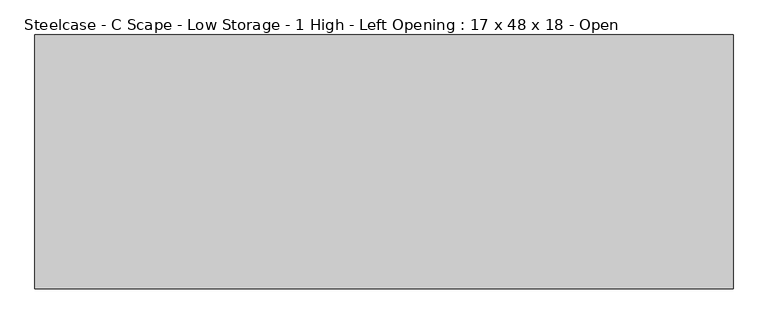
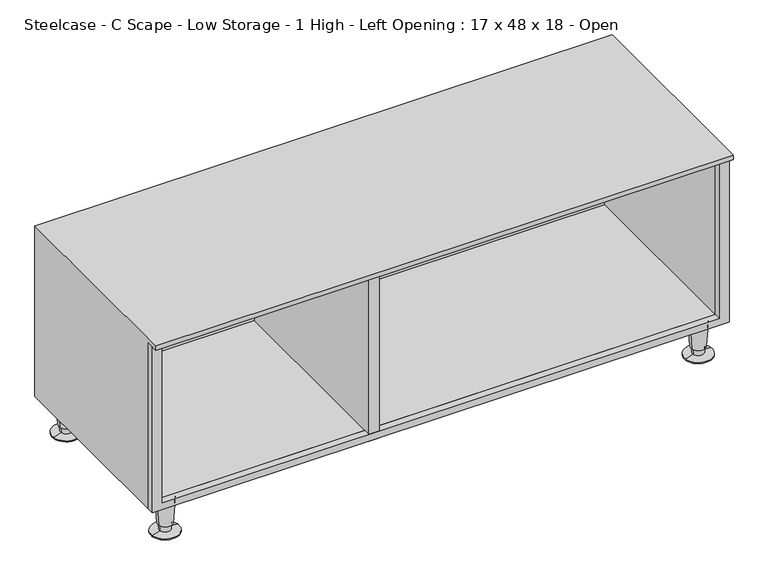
"""IFC4 building model written with IfcOpenShell, lengths in millimetres: furniture geometry, Steelcase - C Scape - Low Storage - 1 High - Left Opening : 17 x 48 x 18 - Open."""

from ifc_helpers import new_model, si_unit, frame, origin, place, context, project, spatial, polyline, circle_curve, outline, extrude, faceted_brep, source, transform, mapped, element, save
from ifc_brep_helpers import plane_surface, cylinder_surface, revolved_surface, advanced_brep


def steelcase_c_scape_low_storage_1_high_left_opening_17_x_48_x_d755b348(model_context):
    return source(origin(), model_context, "Body", "SolidModel", [
        extrude(outline(polyline([(447.0400097, 1217.93), (447.0400097, -0.0013237), (76.2, -0.0013237), (76.2, 1217.93), (447.0400097, 1217.93)]), holes=[polyline([(91.44, 21.3369088), (436.2449927, 21.3369088), (436.2449927, 1196.5917676), (91.44, 1196.5917676), (91.44, 21.3369088)])]), frame((0.0, -428.8790543, 0.0), z_axis=(0.0, 1.0, 0.0), x_axis=(0.0, 0.0, 1.0)), (0.0, 0.0, 1.0), 14.986226),
        advanced_brep(
        [(1190.0494568, -31.5218435, 76.2), (1152.3877179, -37.2840847, 76.2), (1171.2185874, -34.4029641, 76.2), (1186.0991088, -32.1262463, 19.05), (1156.3380659, -36.6796819, 19.05), (1183.6695219, -32.4979728, 19.05), (1158.7676529, -36.3079555, 19.05), (1182.9807524, -32.6033544, 5.7545598), (1159.4564224, -36.2025738, 5.7545598), (1200.3296359, -29.9489775, 2.5119506), (1142.1075389, -38.8569507, 2.5119506), (1200.3296359, -29.9489775, 0.0), (1142.1075389, -38.8569507, 0.0), (1171.2185874, -34.4029641, 0.0)],
        [
            (0, 1, circle_curve(frame((1171.2185874, -34.4029641, 76.2), z_axis=(0.0, 0.0, 1.0), x_axis=(0.0, -1.0, 0.0)), 19.05)),
            (1, 2),
            (2, 0),
            (1, 0, circle_curve(frame((1171.2185874, -34.4029641, 76.2), z_axis=(0.0, 0.0, 1.0), x_axis=(0.0, -1.0, 0.0)), 19.05)),
            (3, 4, circle_curve(frame((1171.2185874, -34.4029641, 19.05), z_axis=(0.0, 0.0, 1.0), x_axis=(0.0, -1.0, 0.0)), 15.0536827)),
            (4, 1),
            (0, 3),
            (4, 3, circle_curve(frame((1171.2185874, -34.4029641, 19.05), z_axis=(0.0, 0.0, 1.0), x_axis=(0.0, -1.0, 0.0)), 15.0536827)),
            (5, 6, circle_curve(frame((1171.2185874, -34.4029641, 19.05), z_axis=(0.0, 0.0, 1.0), x_axis=(0.0, -1.0, 0.0)), 12.5958232)),
            (6, 4),
            (3, 5),
            (6, 5, circle_curve(frame((1171.2185874, -34.4029641, 19.05), z_axis=(0.0, 0.0, 1.0), x_axis=(0.0, -1.0, 0.0)), 12.5958232)),
            (7, 8, circle_curve(frame((1171.2185874, -34.4029641, 5.7545598), z_axis=(0.0, 0.0, 1.0), x_axis=(0.0, -1.0, 0.0)), 11.8990387)),
            (8, 6),
            (5, 7),
            (8, 7, circle_curve(frame((1171.2185874, -34.4029641, 5.7545598), z_axis=(0.0, 0.0, 1.0), x_axis=(0.0, -1.0, 0.0)), 11.8990387)),
            (9, 10, circle_curve(frame((1171.2185874, -34.4029641, 2.5119506), z_axis=(0.0, 0.0, 1.0), x_axis=(0.0, -1.0, 0.0)), 29.4498071)),
            (10, 8),
            (7, 9),
            (10, 9, circle_curve(frame((1171.2185874, -34.4029641, 2.5119506), z_axis=(0.0, 0.0, 1.0), x_axis=(0.0, -1.0, 0.0)), 29.4498071)),
            (11, 12, circle_curve(frame((1171.2185874, -34.4029641, 0.0), z_axis=(0.0, 0.0, 1.0), x_axis=(0.0, -1.0, 0.0)), 29.4498071)),
            (12, 10),
            (9, 11),
            (12, 11, circle_curve(frame((1171.2185874, -34.4029641, 0.0), z_axis=(0.0, 0.0, 1.0), x_axis=(0.0, -1.0, 0.0)), 29.4498071)),
            (13, 12),
            (11, 13),
        ],
        [
            plane_surface(frame((1171.2185874, -34.4029641, 76.2), z_axis=(0.0, 0.0, 1.0), x_axis=(0.0, -1.0, 0.0))),
            revolved_surface(polyline([(1171.2185874, -53.4529641, 76.2), (1171.2185874, -49.4566468, 19.05)]), (1171.2185874, -34.4029641, 25.4), (0.0, 0.0, -1.0)),
            plane_surface(frame((1171.2185874, -34.4029641, 19.05), z_axis=(0.0, 0.0, -1.0), x_axis=(0.0, -1.0, 0.0))),
            revolved_surface(polyline([(1171.2185874, -46.9987873, 19.05), (1171.2185874, -46.3020028, 5.7545598)]), (1171.2185874, -34.4029641, 25.4), (0.0, 0.0, -1.0)),
            revolved_surface(polyline([(1171.2185874, -46.3020028, 5.7545598), (1171.2185874, -63.8527712, 2.5119506)]), (1171.2185874, -34.4029641, 25.4), (0.0, 0.0, -1.0)),
            cylinder_surface(frame((1171.2185874, -34.4029641, 25.4), z_axis=(0.0, 0.0, -1.0), x_axis=(0.0, -1.0, 0.0)), 29.4498071),
            plane_surface(frame((1171.2185874, -34.4029641, 0.0), z_axis=(0.0, 0.0, -1.0), x_axis=(0.0, -1.0, 0.0))),
        ],
        [
            (0, [[1, 2, 3]]),
            (0, [[4, -3, -2]]),
            (1, [[5, 6, -1, 7]]),
            (1, [[8, -7, -4, -6]]),
            (2, [[9, 10, -5, 11]]),
            (2, [[12, -11, -8, -10]]),
            (3, [[13, 14, -9, 15]]),
            (3, [[16, -15, -12, -14]]),
            (4, [[17, 18, -13, 19]]),
            (4, [[20, -19, -16, -18]]),
            (5, [[21, 22, -17, 23]]),
            (5, [[24, -23, -20, -22]]),
            (6, [[25, -21, 26]]),
            (6, [[-26, -24, -25]]),
        ],
    ),
        advanced_brep(
        [(1190.0494568, -392.9793305, 76.2), (1152.3877179, -398.7415716, 76.2), (1171.2185874, -395.8604511, 76.2), (1186.0991088, -393.5837332, 19.05), (1156.3380659, -398.1371689, 19.05), (1183.6695219, -393.9554597, 19.05), (1158.7676529, -397.7654424, 19.05), (1182.9807524, -394.0608413, 5.7545598), (1159.4564224, -397.6600608, 5.7545598), (1200.3296359, -391.4064644, 2.5119506), (1142.1075389, -400.3144377, 2.5119506), (1200.3296359, -391.4064644, 0.0), (1142.1075389, -400.3144377, 0.0), (1171.2185874, -395.8604511, 0.0)],
        [
            (0, 1, circle_curve(frame((1171.2185874, -395.8604511, 76.2), z_axis=(0.0, 0.0, 1.0), x_axis=(0.0, -1.0, 0.0)), 19.05)),
            (1, 2),
            (2, 0),
            (1, 0, circle_curve(frame((1171.2185874, -395.8604511, 76.2), z_axis=(0.0, 0.0, 1.0), x_axis=(0.0, -1.0, 0.0)), 19.05)),
            (3, 4, circle_curve(frame((1171.2185874, -395.8604511, 19.05), z_axis=(0.0, 0.0, 1.0), x_axis=(0.0, -1.0, 0.0)), 15.0536827)),
            (4, 1),
            (0, 3),
            (4, 3, circle_curve(frame((1171.2185874, -395.8604511, 19.05), z_axis=(0.0, 0.0, 1.0), x_axis=(0.0, -1.0, 0.0)), 15.0536827)),
            (5, 6, circle_curve(frame((1171.2185874, -395.8604511, 19.05), z_axis=(0.0, 0.0, 1.0), x_axis=(0.0, -1.0, 0.0)), 12.5958232)),
            (6, 4),
            (3, 5),
            (6, 5, circle_curve(frame((1171.2185874, -395.8604511, 19.05), z_axis=(0.0, 0.0, 1.0), x_axis=(0.0, -1.0, 0.0)), 12.5958232)),
            (7, 8, circle_curve(frame((1171.2185874, -395.8604511, 5.7545598), z_axis=(0.0, 0.0, 1.0), x_axis=(0.0, -1.0, 0.0)), 11.8990387)),
            (8, 6),
            (5, 7),
            (8, 7, circle_curve(frame((1171.2185874, -395.8604511, 5.7545598), z_axis=(0.0, 0.0, 1.0), x_axis=(0.0, -1.0, 0.0)), 11.8990387)),
            (9, 10, circle_curve(frame((1171.2185874, -395.8604511, 2.5119506), z_axis=(0.0, 0.0, 1.0), x_axis=(0.0, -1.0, 0.0)), 29.4498071)),
            (10, 8),
            (7, 9),
            (10, 9, circle_curve(frame((1171.2185874, -395.8604511, 2.5119506), z_axis=(0.0, 0.0, 1.0), x_axis=(0.0, -1.0, 0.0)), 29.4498071)),
            (11, 12, circle_curve(frame((1171.2185874, -395.8604511, 0.0), z_axis=(0.0, 0.0, 1.0), x_axis=(0.0, -1.0, 0.0)), 29.4498071)),
            (12, 10),
            (9, 11),
            (12, 11, circle_curve(frame((1171.2185874, -395.8604511, 0.0), z_axis=(0.0, 0.0, 1.0), x_axis=(0.0, -1.0, 0.0)), 29.4498071)),
            (13, 12),
            (11, 13),
        ],
        [
            plane_surface(frame((1171.2185874, -395.8604511, 76.2), z_axis=(0.0, 0.0, 1.0), x_axis=(0.0, -1.0, 0.0))),
            revolved_surface(polyline([(1171.2185874, -414.9104511, 76.2), (1171.2185874, -410.9141338, 19.05)]), (1171.2185874, -395.8604511, 25.4), (0.0, 0.0, -1.0)),
            plane_surface(frame((1171.2185874, -395.8604511, 19.05), z_axis=(0.0, 0.0, -1.0), x_axis=(0.0, -1.0, 0.0))),
            revolved_surface(polyline([(1171.2185874, -408.4562742, 19.05), (1171.2185874, -407.7594897, 5.7545598)]), (1171.2185874, -395.8604511, 25.4), (0.0, 0.0, -1.0)),
            revolved_surface(polyline([(1171.2185874, -407.7594897, 5.7545598), (1171.2185874, -425.3102582, 2.5119506)]), (1171.2185874, -395.8604511, 25.4), (0.0, 0.0, -1.0)),
            cylinder_surface(frame((1171.2185874, -395.8604511, 25.4), z_axis=(0.0, 0.0, -1.0), x_axis=(0.0, -1.0, 0.0)), 29.4498071),
            plane_surface(frame((1171.2185874, -395.8604511, 0.0), z_axis=(0.0, 0.0, -1.0), x_axis=(0.0, -1.0, 0.0))),
        ],
        [
            (0, [[1, 2, 3]]),
            (0, [[4, -3, -2]]),
            (1, [[5, 6, -1, 7]]),
            (1, [[8, -7, -4, -6]]),
            (2, [[9, 10, -5, 11]]),
            (2, [[12, -11, -8, -10]]),
            (3, [[13, 14, -9, 15]]),
            (3, [[16, -15, -12, -14]]),
            (4, [[17, 18, -13, 19]]),
            (4, [[20, -19, -16, -18]]),
            (5, [[21, 22, -17, 23]]),
            (5, [[24, -23, -20, -22]]),
            (6, [[25, -21, 26]]),
            (6, [[-26, -24, -25]]),
        ],
    ),
        advanced_brep(
        [(64.9305458, -392.9793305, 76.2), (27.2688069, -398.7415716, 76.2), (46.0996763, -395.8604511, 76.2), (60.9801978, -393.5837332, 19.05), (31.2191549, -398.1371689, 19.05), (58.5506108, -393.9554597, 19.05), (33.6487419, -397.7654424, 19.05), (57.8618414, -394.0608413, 5.7545598), (34.3375113, -397.6600608, 5.7545598), (75.2107248, -391.4064644, 2.5119506), (16.9886279, -400.3144377, 2.5119506), (75.2107248, -391.4064644, 0.0), (16.9886279, -400.3144377, 0.0), (46.0996763, -395.8604511, 0.0)],
        [
            (0, 1, circle_curve(frame((46.0996763, -395.8604511, 76.2), z_axis=(0.0, 0.0, 1.0), x_axis=(0.0, -1.0, 0.0)), 19.05)),
            (1, 2),
            (2, 0),
            (1, 0, circle_curve(frame((46.0996763, -395.8604511, 76.2), z_axis=(0.0, 0.0, 1.0), x_axis=(0.0, -1.0, 0.0)), 19.05)),
            (3, 4, circle_curve(frame((46.0996763, -395.8604511, 19.05), z_axis=(0.0, 0.0, 1.0), x_axis=(0.0, -1.0, 0.0)), 15.0536827)),
            (4, 1),
            (0, 3),
            (4, 3, circle_curve(frame((46.0996763, -395.8604511, 19.05), z_axis=(0.0, 0.0, 1.0), x_axis=(0.0, -1.0, 0.0)), 15.0536827)),
            (5, 6, circle_curve(frame((46.0996763, -395.8604511, 19.05), z_axis=(0.0, 0.0, 1.0), x_axis=(0.0, -1.0, 0.0)), 12.5958232)),
            (6, 4),
            (3, 5),
            (6, 5, circle_curve(frame((46.0996763, -395.8604511, 19.05), z_axis=(0.0, 0.0, 1.0), x_axis=(0.0, -1.0, 0.0)), 12.5958232)),
            (7, 8, circle_curve(frame((46.0996763, -395.8604511, 5.7545598), z_axis=(0.0, 0.0, 1.0), x_axis=(0.0, -1.0, 0.0)), 11.8990387)),
            (8, 6),
            (5, 7),
            (8, 7, circle_curve(frame((46.0996763, -395.8604511, 5.7545598), z_axis=(0.0, 0.0, 1.0), x_axis=(0.0, -1.0, 0.0)), 11.8990387)),
            (9, 10, circle_curve(frame((46.0996763, -395.8604511, 2.5119506), z_axis=(0.0, 0.0, 1.0), x_axis=(0.0, -1.0, 0.0)), 29.4498071)),
            (10, 8),
            (7, 9),
            (10, 9, circle_curve(frame((46.0996763, -395.8604511, 2.5119506), z_axis=(0.0, 0.0, 1.0), x_axis=(0.0, -1.0, 0.0)), 29.4498071)),
            (11, 12, circle_curve(frame((46.0996763, -395.8604511, 0.0), z_axis=(0.0, 0.0, 1.0), x_axis=(0.0, -1.0, 0.0)), 29.4498071)),
            (12, 10),
            (9, 11),
            (12, 11, circle_curve(frame((46.0996763, -395.8604511, 0.0), z_axis=(0.0, 0.0, 1.0), x_axis=(0.0, -1.0, 0.0)), 29.4498071)),
            (13, 12),
            (11, 13),
        ],
        [
            plane_surface(frame((46.0996763, -395.8604511, 76.2), z_axis=(0.0, 0.0, 1.0), x_axis=(0.0, -1.0, 0.0))),
            revolved_surface(polyline([(46.0996763, -414.9104511, 76.2), (46.0996763, -410.9141338, 19.05)]), (46.0996763, -395.8604511, 25.4), (0.0, 0.0, -1.0)),
            plane_surface(frame((46.0996763, -395.8604511, 19.05), z_axis=(0.0, 0.0, -1.0), x_axis=(0.0, -1.0, 0.0))),
            revolved_surface(polyline([(46.0996763, -408.4562742, 19.05), (46.0996763, -407.7594897, 5.7545598)]), (46.0996763, -395.8604511, 25.4), (0.0, 0.0, -1.0)),
            revolved_surface(polyline([(46.0996763, -407.7594897, 5.7545598), (46.0996763, -425.3102582, 2.5119506)]), (46.0996763, -395.8604511, 25.4), (0.0, 0.0, -1.0)),
            cylinder_surface(frame((46.0996763, -395.8604511, 25.4), z_axis=(0.0, 0.0, -1.0), x_axis=(0.0, -1.0, 0.0)), 29.4498071),
            plane_surface(frame((46.0996763, -395.8604511, 0.0), z_axis=(0.0, 0.0, -1.0), x_axis=(0.0, -1.0, 0.0))),
        ],
        [
            (0, [[1, 2, 3]]),
            (0, [[4, -3, -2]]),
            (1, [[5, 6, -1, 7]]),
            (1, [[8, -7, -4, -6]]),
            (2, [[9, 10, -5, 11]]),
            (2, [[12, -11, -8, -10]]),
            (3, [[13, 14, -9, 15]]),
            (3, [[16, -15, -12, -14]]),
            (4, [[17, 18, -13, 19]]),
            (4, [[20, -19, -16, -18]]),
            (5, [[21, 22, -17, 23]]),
            (5, [[24, -23, -20, -22]]),
            (6, [[25, -21, 26]]),
            (6, [[-26, -24, -25]]),
        ],
    ),
        advanced_brep(
        [(64.9305458, -31.5218435, 76.2), (27.2688069, -37.2840847, 76.2), (46.0996763, -34.4029641, 76.2), (60.9801978, -32.1262463, 19.05), (31.2191549, -36.6796819, 19.05), (58.5506108, -32.4979728, 19.05), (33.6487419, -36.3079555, 19.05), (57.8618414, -32.6033544, 5.7545598), (34.3375113, -36.2025738, 5.7545598), (75.2107248, -29.9489775, 2.5119506), (16.9886279, -38.8569507, 2.5119506), (75.2107248, -29.9489775, 0.0), (16.9886279, -38.8569507, 0.0), (46.0996763, -34.4029641, 0.0)],
        [
            (0, 1, circle_curve(frame((46.0996763, -34.4029641, 76.2), z_axis=(0.0, 0.0, 1.0), x_axis=(0.0, -1.0, 0.0)), 19.05)),
            (1, 2),
            (2, 0),
            (1, 0, circle_curve(frame((46.0996763, -34.4029641, 76.2), z_axis=(0.0, 0.0, 1.0), x_axis=(0.0, -1.0, 0.0)), 19.05)),
            (3, 4, circle_curve(frame((46.0996763, -34.4029641, 19.05), z_axis=(0.0, 0.0, 1.0), x_axis=(0.0, -1.0, 0.0)), 15.0536827)),
            (4, 1),
            (0, 3),
            (4, 3, circle_curve(frame((46.0996763, -34.4029641, 19.05), z_axis=(0.0, 0.0, 1.0), x_axis=(0.0, -1.0, 0.0)), 15.0536827)),
            (5, 6, circle_curve(frame((46.0996763, -34.4029641, 19.05), z_axis=(0.0, 0.0, 1.0), x_axis=(0.0, -1.0, 0.0)), 12.5958232)),
            (6, 4),
            (3, 5),
            (6, 5, circle_curve(frame((46.0996763, -34.4029641, 19.05), z_axis=(0.0, 0.0, 1.0), x_axis=(0.0, -1.0, 0.0)), 12.5958232)),
            (7, 8, circle_curve(frame((46.0996763, -34.4029641, 5.7545598), z_axis=(0.0, 0.0, 1.0), x_axis=(0.0, -1.0, 0.0)), 11.8990387)),
            (8, 6),
            (5, 7),
            (8, 7, circle_curve(frame((46.0996763, -34.4029641, 5.7545598), z_axis=(0.0, 0.0, 1.0), x_axis=(0.0, -1.0, 0.0)), 11.8990387)),
            (9, 10, circle_curve(frame((46.0996763, -34.4029641, 2.5119506), z_axis=(0.0, 0.0, 1.0), x_axis=(0.0, -1.0, 0.0)), 29.4498071)),
            (10, 8),
            (7, 9),
            (10, 9, circle_curve(frame((46.0996763, -34.4029641, 2.5119506), z_axis=(0.0, 0.0, 1.0), x_axis=(0.0, -1.0, 0.0)), 29.4498071)),
            (11, 12, circle_curve(frame((46.0996763, -34.4029641, 0.0), z_axis=(0.0, 0.0, 1.0), x_axis=(0.0, -1.0, 0.0)), 29.4498071)),
            (12, 10),
            (9, 11),
            (12, 11, circle_curve(frame((46.0996763, -34.4029641, 0.0), z_axis=(0.0, 0.0, 1.0), x_axis=(0.0, -1.0, 0.0)), 29.4498071)),
            (13, 12),
            (11, 13),
        ],
        [
            plane_surface(frame((46.0996763, -34.4029641, 76.2), z_axis=(0.0, 0.0, 1.0), x_axis=(0.0, -1.0, 0.0))),
            revolved_surface(polyline([(46.0996763, -53.4529641, 76.2), (46.0996763, -49.4566468, 19.05)]), (46.0996763, -34.4029641, 25.4), (0.0, 0.0, -1.0)),
            plane_surface(frame((46.0996763, -34.4029641, 19.05), z_axis=(0.0, 0.0, -1.0), x_axis=(0.0, -1.0, 0.0))),
            revolved_surface(polyline([(46.0996763, -46.9987873, 19.05), (46.0996763, -46.3020028, 5.7545598)]), (46.0996763, -34.4029641, 25.4), (0.0, 0.0, -1.0)),
            revolved_surface(polyline([(46.0996763, -46.3020028, 5.7545598), (46.0996763, -63.8527712, 2.5119506)]), (46.0996763, -34.4029641, 25.4), (0.0, 0.0, -1.0)),
            cylinder_surface(frame((46.0996763, -34.4029641, 25.4), z_axis=(0.0, 0.0, -1.0), x_axis=(0.0, -1.0, 0.0)), 29.4498071),
            plane_surface(frame((46.0996763, -34.4029641, 0.0), z_axis=(0.0, 0.0, -1.0), x_axis=(0.0, -1.0, 0.0))),
        ],
        [
            (0, [[1, 2, 3]]),
            (0, [[4, -3, -2]]),
            (1, [[5, 6, -1, 7]]),
            (1, [[8, -7, -4, -6]]),
            (2, [[9, 10, -5, 11]]),
            (2, [[12, -11, -8, -10]]),
            (3, [[13, 14, -9, 15]]),
            (3, [[16, -15, -12, -14]]),
            (4, [[17, 18, -13, 19]]),
            (4, [[20, -19, -16, -18]]),
            (5, [[21, 22, -17, 23]]),
            (5, [[24, -23, -20, -22]]),
            (6, [[25, -21, 26]]),
            (6, [[-26, -24, -25]]),
        ],
    ),
        faceted_brep([(-0.0013237, 0.0, 76.2), (-0.0013237, -413.8928283, 76.2), (-0.0013237, -413.8928283, 447.0400097), (-0.0013237, -442.5949322, 447.0400097), (-0.0013237, -442.5949322, 457.2), (-0.0013237, 0.0, 457.2), (457.1996899, -413.8928283, 76.2), (457.1996899, -413.8928283, 91.44), (21.3369088, -413.8928283, 91.44), (21.3369088, -413.8928283, 447.0400097), (1217.93, -413.8928283, 76.2), (1217.93, -413.8928283, 447.0400097), (1196.5917676, -413.8928283, 447.0400097), (1196.5917676, -413.8928283, 91.44), (479.4277905, -413.8928283, 91.44), (479.4277905, -413.8928283, 76.2), (21.3369088, -9.525, 91.44), (21.3369088, -9.525, 447.0400097), (457.1996899, -9.525, 91.44), (457.1996899, -9.525, 447.0400097), (457.1996899, -428.8790543, 76.2), (457.1996899, -428.8790543, 447.0400097), (479.4277905, -428.8790543, 447.0400097), (479.4277905, -428.8790543, 76.2), (479.4277905, -9.525, 91.44), (479.4277905, -9.525, 447.0400097), (1196.5917676, -9.525, 91.44), (1196.5917676, -9.525, 447.0400097), (1217.93, 0.0, 76.2), (1217.93, 0.0, 457.2), (1217.93, -442.5949322, 457.2), (1217.93, -442.5949322, 447.0400097)], [[[0, 1, 2, 3, 4, 5]], [[2, 1, 6, 7, 8, 9]], [[10, 11, 12, 13, 14, 15]], [[9, 8, 16, 17]], [[17, 16, 18, 19]], [[20, 21, 19, 18, 7, 6]], [[22, 23, 15, 14, 24, 25]], [[25, 24, 26, 27]], [[27, 26, 13, 12]], [[10, 28, 29, 30, 31, 11]], [[29, 28, 0, 5]], [[8, 7, 18, 16]], [[14, 13, 26, 24]], [[5, 4, 30, 29]], [[31, 3, 2, 9, 17, 19, 21, 22, 25, 27, 12, 11]], [[0, 28, 10, 15, 23, 20, 6, 1]], [[20, 23, 22, 21]], [[30, 4, 3, 31]]]),
    ])


if __name__ == "__main__":
    model = new_model("IFC4")
    model_context = context("Model", 3, world=origin())
    ifc_project = project(units=[si_unit("LENGTHUNIT", "METRE", prefix="MILLI")], contexts=[model_context])
    site = spatial("IfcSite", under=ifc_project)
    building = spatial("IfcBuilding", under=site)
    placement = place(None, origin())
    steelcase_c_scape_low_storage_1_high_left_opening_17_x_48_x_shape = steelcase_c_scape_low_storage_1_high_left_opening_17_x_48_x_d755b348(model_context)
    element("IfcFurniture", 1, ObjectType="Steelcase - C Scape - Low Storage - 1 High - Left Opening : 17 x 48 x 18 - Open", at=placement, inside=building, context=model_context, shape_type="MappedRepresentation", body=[
        mapped(steelcase_c_scape_low_storage_1_high_left_opening_17_x_48_x_shape, transform((0.0, 0.0, 0.0), x_axis=(1.0, 0.0, 0.0), y_axis=(0.0, 1.0, 0.0), z_axis=(0.0, 0.0, 1.0))),
    ])
    save(model, "model.ifc")
